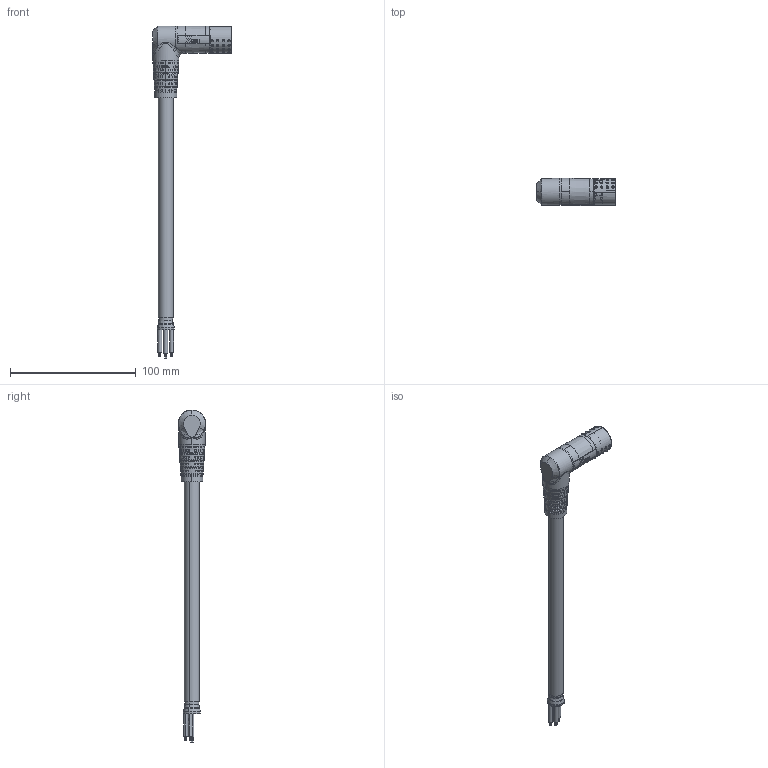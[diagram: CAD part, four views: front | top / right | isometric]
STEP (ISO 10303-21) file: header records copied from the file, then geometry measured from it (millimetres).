
FILE_DESCRIPTION (( 'STEP AP214' ), '1' );
FILE_NAME ('W-TEC 15M GLATT-BU_90°L 4x.STEP', '2021-07-01T15:13:20', ( '' ), ( '' ), 'SwSTEP 2.0', 'SolidWorks 2021', '' );
FILE_SCHEMA (( 'AUTOMOTIVE_DESIGN' ));
Length unit declared in the file: millimetre
Products named in the file (1): W-TEC 15M GLATT-BU_90袂 4x
Bounding box: 62.81 x 21.83 x 264.31 mm (x, y, z)
Surface area: 21299.1 mm2 (no closed solid volume)
Topology: 0 solids, 5 shells, 1573 faces, 3850 edges, 2502 vertices
Faces by surface type: cylinder 635, plane 472, bspline 421, cone 44, torus 1
Entity records: 89960 total; most frequent: CARTESIAN_POINT 38565, ORIENTED_EDGE 7489, DIRECTION 6370, EDGE_CURVE 3785, AXIS2_PLACEMENT_3D 2635, VERTEX_POINT 2502, EDGE_LOOP 1874, UNCERTAINTY_MEASURE_WITH_UNIT 1576
